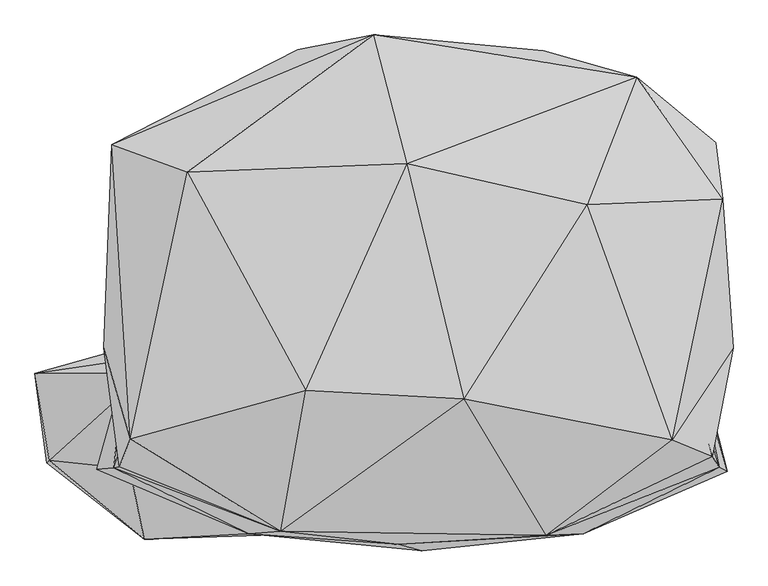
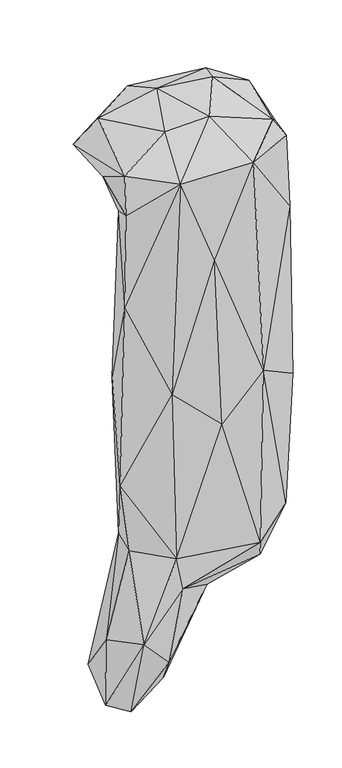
"""IFC4 building model written with IfcOpenShell, lengths in millimetres: geographic element geometry, Enscape AssetDefinition - Bower Vine 06 : Enscape AssetDefinition - Bower Vine 06."""

import ifcopenshell
import ifcopenshell.guid

model = None  # the IFC model being written
_history = None  # IfcOwnerHistory: only IFC2X3 demands one
_inside = {}  # id of a spatial element -> (the spatial element, [elements in it])
_under = {}  # id of a project, library or spatial element -> (it, [spatial elements below it])
_declared = {}  # id of a project -> (the project, [libraries it declares])
_typed = {}  # id of a type object -> (the type object, [elements of that type])
_made_of = {}  # id of a material, layer set ... -> (it, [elements and type objects made of it])


def new_model(schema):
    """Start an empty IFC model of exactly this schema.

    Asked for "IFC4X3", IfcOpenShell would pick the latest addendum, in which some entities
    have other attributes; the version numbers below select the first issue.
    IFC2X3 requires an IfcOwnerHistory on every rooted entity: one is made here for all.
    """
    global model, _history
    if schema == "IFC4X3":
        model = ifcopenshell.file(schema_version=(4, 3, 0, 0))
    else:
        model = ifcopenshell.file(schema=schema)
    _inside.clear()
    _under.clear()
    _declared.clear()
    _typed.clear()
    _made_of.clear()
    _history = None
    if model.schema == "IFC2X3":
        org = make("IfcOrganization", Name="unknown")
        user = make(
            "IfcPersonAndOrganization",
            ThePerson=make("IfcPerson", FamilyName="unknown"),
            TheOrganization=org,
        )
        app = make(
            "IfcApplication",
            ApplicationDeveloper=org,
            Version="unknown",
            ApplicationFullName="unknown",
            ApplicationIdentifier="unknown",
        )
        _history = make(
            "IfcOwnerHistory",
            OwningUser=user,
            OwningApplication=app,
            ChangeAction="ADDED",
            CreationDate=0,
        )
    return model


def make(cls, **values):
    """One entity of the class cls with the attributes given. An attribute that is None is left unset."""
    return model.create_entity(
        cls, **{name: value for name, value in values.items() if value is not None}
    )


def rooted(cls, **values):
    """An entity with a GlobalId (a new one), such as an element, a storey or a relation."""
    return make(cls, GlobalId=ifcopenshell.guid.new(), OwnerHistory=_history, **values)


def si_unit(unit_type, name, prefix=None):
    """IfcSIUnit, for example si_unit("LENGTHUNIT", "METRE", prefix="MILLI")."""
    return make("IfcSIUnit", UnitType=unit_type, Prefix=prefix, Name=name)


def assignment(units):
    """IfcUnitAssignment: the units of a project."""
    return None if units is None else make("IfcUnitAssignment", Units=units)


def point(xyz):
    """IfcCartesianPoint."""
    return None if xyz is None else make("IfcCartesianPoint", Coordinates=xyz)


def direction(xyz):
    """IfcDirection."""
    return None if xyz is None else make("IfcDirection", DirectionRatios=xyz)


def frame(location, z_axis=None, x_axis=None):
    """IfcAxis2Placement3D, a coordinate frame: its origin and axes. An axis left out is left unset."""
    return make(
        "IfcAxis2Placement3D",
        Location=point(location),
        Axis=direction(z_axis),
        RefDirection=direction(x_axis),
    )


def origin():
    """The frame at (0, 0, 0) with its axes left unset."""
    return frame((0.0, 0.0, 0.0))


def place(relative_to, where):
    """IfcLocalPlacement: puts the frame where relative to a parent placement (None: the world)."""
    return make(
        "IfcLocalPlacement", PlacementRelTo=relative_to, RelativePlacement=where
    )


def context(
    kind, dimensions, precision=None, world=None, true_north=None, identifier=None
):
    """IfcGeometricRepresentationContext, for example the 3D "Model" context."""
    return make(
        "IfcGeometricRepresentationContext",
        ContextIdentifier=identifier,
        ContextType=kind,
        CoordinateSpaceDimension=dimensions,
        Precision=precision,
        WorldCoordinateSystem=world,
        TrueNorth=true_north,
    )


def project(units=None, contexts=None):
    """IfcProject with its units and contexts."""
    return rooted(
        "IfcProject",
        Name="project",
        RepresentationContexts=contexts,
        UnitsInContext=assignment(units),
    )


def spatial(cls, under=None, at=None, **own):
    """A site, building, storey or space (cls), placed at a placement, below another one or the project."""
    s = rooted(cls, ObjectPlacement=at, **own)
    if under is not None:
        _under.setdefault(under.id(), (under, []))[1].append(s)
    return s


def faces_of(points, faces, orient=None, outer=None):
    """IfcFace entities. A face is a list of loops; a loop is a list of indices into points, from 0.

    orient and outer hold one flag for each loop. By default every Orientation is true, the
    first loop of a face is its IfcFaceOuterBound and the others are IfcFaceBound.
    """
    made = []
    for i, loops in enumerate(faces):
        bounds = []
        for j, loop in enumerate(loops):
            is_outer = j == 0 if outer is None else outer[i][j]
            bounds.append(
                make(
                    "IfcFaceOuterBound" if is_outer else "IfcFaceBound",
                    Bound=make("IfcPolyLoop", Polygon=[points[k] for k in loop]),
                    Orientation=True if orient is None else orient[i][j],
                )
            )
        made.append(make("IfcFace", Bounds=bounds))
    return made


def faceted_brep(points, faces, orient=None, outer=None, voids=None):
    """IfcFacetedBrep: a solid bounded by flat faces; with voids (closed shells), ...WithVoids."""
    shared = [point(p) for p in points]
    hull = make("IfcClosedShell", CfsFaces=faces_of(shared, faces, orient, outer))
    if voids is None:
        return make("IfcFacetedBrep", Outer=hull)
    return make(
        "IfcFacetedBrepWithVoids",
        Outer=hull,
        Voids=[
            make(cls, CfsFaces=faces_of(shared, fs, o, b)) for cls, fs, o, b in voids
        ],
    )


def shape(context_of_items, identifier, shape_type, items):
    """IfcShapeRepresentation: the items that make up one representation, for example the "Body"."""
    return make(
        "IfcShapeRepresentation",
        ContextOfItems=context_of_items,
        RepresentationIdentifier=identifier,
        RepresentationType=shape_type,
        Items=items,
    )


def source(mapping_origin, context_of_items, identifier, shape_type, items):
    """IfcRepresentationMap: a shape defined once, which mapped items show again and again."""
    return make(
        "IfcRepresentationMap",
        MappingOrigin=mapping_origin,
        MappedRepresentation=shape(context_of_items, identifier, shape_type, items),
    )


def transform(
    local_origin,
    x_axis=None,
    y_axis=None,
    z_axis=None,
    scale=None,
    scale2=None,
    scale3=None,
    uniform=True,
):
    """IfcCartesianTransformationOperator3D, or its non-uniform kind. x_axis, y_axis, z_axis: its Axis1, 2, 3."""
    if uniform:
        return make(
            "IfcCartesianTransformationOperator3D",
            Axis1=direction(x_axis),
            Axis2=direction(y_axis),
            LocalOrigin=point(local_origin),
            Scale=scale,
            Axis3=direction(z_axis),
        )
    return make(
        "IfcCartesianTransformationOperator3DnonUniform",
        Axis1=direction(x_axis),
        Axis2=direction(y_axis),
        LocalOrigin=point(local_origin),
        Scale=scale,
        Axis3=direction(z_axis),
        Scale2=scale2,
        Scale3=scale3,
    )


def mapped(mapping_source, mapping_target):
    """IfcMappedItem: shows the shape of a source again, moved by a transform."""
    return make(
        "IfcMappedItem", MappingSource=mapping_source, MappingTarget=mapping_target
    )


def made_of(thing, what):
    """Note that an element or type object is made of a material, layer set ...; save() writes the relation."""
    if what is not None:
        _made_of.setdefault(what.id(), (what, []))[1].append(thing)
    return thing


def element(
    cls,
    number,
    at=None,
    inside=None,
    cuts=None,
    type_object=None,
    material=None,
    context=None,
    identifier="Body",
    shape_type=None,
    held_by="IfcProductDefinitionShape",
    body=None,
    shapes=None,
    **own,
):
    """One element of the class cls, such as IfcWall. Its Tag is "e" and its number.

    at: its placement. inside: the storey or other place that contains it. cuts: it is an
    opening in that element (IfcRelVoidsElement). A single representation is given by context,
    identifier, shape_type and body (its items); several are given by shapes. held_by: the class
    of the entity that holds the representations. save() writes the other relations.
    """
    e = rooted(cls, Tag="e%d" % number, ObjectPlacement=at, **own)
    if body is not None:
        shapes = [shape(context, identifier, shape_type, body)]
    if shapes is not None:
        e.Representation = make(held_by, Representations=shapes)
    if inside is not None:
        _inside.setdefault(inside.id(), (inside, []))[1].append(e)
    if cuts is not None:
        rooted(
            "IfcRelVoidsElement", RelatingBuildingElement=cuts, RelatedOpeningElement=e
        )
    if type_object is not None:
        _typed.setdefault(type_object.id(), (type_object, []))[1].append(e)
    return made_of(e, material)


def aggregate(whole, parts):
    """IfcRelAggregates: a whole, such as a stair, and the parts it consists of."""
    return rooted("IfcRelAggregates", RelatingObject=whole, RelatedObjects=parts)


def save(model, path):
    """Write the relations noted so far, then the file.

    IfcRelAggregates (storeys below a building ...), IfcRelContainedInSpatialStructure (elements
    in a storey), IfcRelDefinesByType, IfcRelAssociatesMaterial and IfcRelDeclares: one each for
    every whole, place, type object, material and project.
    """
    for whole, parts in _under.values():
        aggregate(whole, parts)
    for where, things in _inside.values():
        rooted(
            "IfcRelContainedInSpatialStructure",
            RelatedElements=things,
            RelatingStructure=where,
        )
    for kind, things in _typed.values():
        rooted("IfcRelDefinesByType", RelatedObjects=things, RelatingType=kind)
    for what, things in _made_of.values():
        rooted("IfcRelAssociatesMaterial", RelatedObjects=things, RelatingMaterial=what)
    for by, libraries in _declared.values():
        rooted("IfcRelDeclares", RelatingContext=by, RelatedDefinitions=libraries)
    model.write(path)


def geographic_element_d4c91cff(model_context):
    return source(origin(), model_context, "Body", "Brep", [
        faceted_brep([(-505.6430101, -0.59, 1.274), (602.5720239, -0.59, 1.274), (514.2980218, -0.59, -182.6730072), (267.888993, 522.9920149, 1.274), (571.9670057, 361.1040115, 1.274), (584.7939849, 262.0770037, 116.7500019), (495.6550002, -162.4139994, 141.5629983), (565.9369826, -191.0630018, 22.2379994), (432.7700138, 476.76301, 124.8430014), (-164.0489995, 525.3049731, 1.274), (-29.871, 551.2409806, 118.0810034), (29.3000005, 324.3489861, 218.1230038), (345.5759883, 252.4499893, 228.6970019), (128.9079934, -90.1470035, 243.9280003), (273.4430134, -330.7279944, 28.8880002), (577.8220296, -211.0199928, -449.4250119), (-193.9660013, -323.9090145, 37.8349982), (338.8009965, -327.5080025, -1413.7649536), (13.3520002, -346.6140032, -535.5370045), (-150.1780003, -74.9799982, 226.6090065), (-358.2859933, 309.0730011, 159.5309973), (-458.6029947, -160.7760042, 84.8359987), (-491.0700023, 357.8479886, 1.274), (-477.9469967, -210.1999968, -146.1230069), (-298.1849909, -0.59, -284.7270072), (-435.2410138, -49.6679991, -226.5679985), (-487.9310131, -211.4769965, -768.8080072), (-469.6660042, -40.0880016, -1350.2550125), (429.3949902, -0.59, -1423.9569902), (-327.9620111, -0.59, -2423.8801003), (543.851018, -48.0929986, -771.9029784), (312.7340078, -0.59, -2549.3159294), (547.7039814, -43.2629995, -1667.5450802), (533.2480073, -57.2960004, -2440.9899712), (592.3900008, -217.5049931, -1589.5600319), (554.0980101, -204.4209987, -2466.5629864), (327.7649879, -313.3220077, -2589.3130302), (384.6209943, -207.9659998, -2755.3911209), (55.6369983, -357.4309945, -1664.1579866), (-219.8999971, -325.6280124, -2503.013134), (-178.1920046, -328.2999992, -2718.9199924), (40.1519984, -213.7479931, -2835.3891373), (40.1629992, -51.2470007, -2802.4470806), (-434.1439903, -336.9460106, -3005.8319569), (-261.4359856, -312.846005, -3198.7230778), (-232.5710058, -204.2929977, -3378.4909248), (-256.3759983, -0.59, -3327.8200626), (-80.0639987, -0.59, -2840.8410549), (-470.5860019, -0.59, -3443.9511299), (-451.0129988, -220.5149978, -3527.0519257), (-606.0450077, -202.0889968, -3439.6979809), (-626.6980171, -44.4790013, -3248.0111122), (-431.1119914, -44.0169983, -2424.423933), (-601.4130116, -198.1340051, -2997.7500439), (-459.4370127, -213.0569965, -2431.8459034), (-517.7890062, -214.4110054, -1973.1429815), (-250.2110004, -327.9010057, -1375.2590418)], [[[0, 1, 2]], [[3, 4, 1]], [[3, 1, 0]], [[4, 5, 1]], [[1, 5, 6]], [[7, 1, 6]], [[7, 2, 1]], [[8, 5, 4]], [[3, 8, 4]], [[0, 9, 3]], [[10, 8, 3]], [[9, 10, 3]], [[11, 12, 8]], [[5, 8, 12]], [[11, 8, 10]], [[6, 5, 12]], [[13, 6, 12]], [[13, 12, 11]], [[7, 6, 14]], [[13, 14, 6]], [[7, 15, 2]], [[14, 15, 7]], [[14, 13, 16]], [[17, 15, 14]], [[18, 14, 16]], [[18, 17, 14]], [[19, 13, 11]], [[16, 13, 19]], [[19, 20, 21]], [[16, 19, 21]], [[19, 11, 20]], [[22, 20, 10]], [[11, 10, 20]], [[20, 22, 21]], [[21, 22, 0]], [[21, 0, 23]], [[23, 16, 21]], [[9, 0, 22]], [[9, 22, 10]], [[24, 0, 2]], [[24, 25, 0]], [[25, 23, 0]], [[26, 23, 25]], [[26, 16, 23]], [[27, 25, 24]], [[27, 26, 25]], [[24, 2, 28]], [[24, 28, 29]], [[27, 24, 29]], [[28, 2, 30]], [[2, 15, 30]], [[29, 28, 31]], [[32, 28, 30]], [[33, 28, 32]], [[33, 31, 28]], [[32, 30, 34]], [[34, 30, 15]], [[17, 34, 15]], [[35, 34, 17]], [[35, 32, 34]], [[33, 32, 35]], [[35, 31, 33]], [[36, 35, 17]], [[36, 37, 35]], [[37, 31, 35]], [[38, 17, 18]], [[38, 36, 17]], [[36, 38, 39]], [[40, 36, 39]], [[40, 37, 36]], [[41, 37, 40]], [[42, 31, 37]], [[41, 42, 37]], [[40, 39, 43]], [[44, 41, 40]], [[43, 44, 40]], [[44, 45, 41]], [[45, 42, 41]], [[46, 42, 45]], [[42, 47, 31]], [[46, 47, 42]], [[29, 31, 47]], [[29, 47, 48]], [[48, 47, 46]], [[48, 46, 45]], [[45, 49, 48]], [[49, 45, 44]], [[49, 44, 43]], [[43, 50, 49]], [[49, 50, 48]], [[48, 50, 51]], [[48, 51, 29]], [[27, 29, 52]], [[29, 51, 52]], [[50, 53, 51]], [[51, 53, 52]], [[43, 53, 50]], [[43, 54, 53]], [[53, 54, 52]], [[54, 55, 52]], [[55, 27, 52]], [[26, 27, 55]], [[54, 39, 55]], [[39, 56, 55]], [[55, 56, 26]], [[43, 39, 54]], [[39, 38, 56]], [[56, 16, 26]], [[56, 18, 16]], [[56, 38, 18]]]),
    ])


if __name__ == "__main__":
    model = new_model("IFC4")
    model_context = context("Model", 3, world=origin())
    ifc_project = project(units=[si_unit("LENGTHUNIT", "METRE", prefix="MILLI")], contexts=[model_context])
    site = spatial("IfcSite", under=ifc_project)
    building = spatial("IfcBuilding", under=site)
    placement = place(None, origin())
    geographic_element_shape = geographic_element_d4c91cff(model_context)
    element("IfcGeographicElement", 1, ObjectType="Enscape AssetDefinition - Bower Vine 06 : Enscape AssetDefinition - Bower Vine 06", at=placement, inside=building, context=model_context, shape_type="MappedRepresentation", body=[
        mapped(geographic_element_shape, transform((0.0, 0.0, 0.0), x_axis=(1.0, 0.0, 0.0), y_axis=(0.0, 1.0, 0.0), z_axis=(0.0, 0.0, 1.0))),
    ])
    save(model, "model.ifc")
